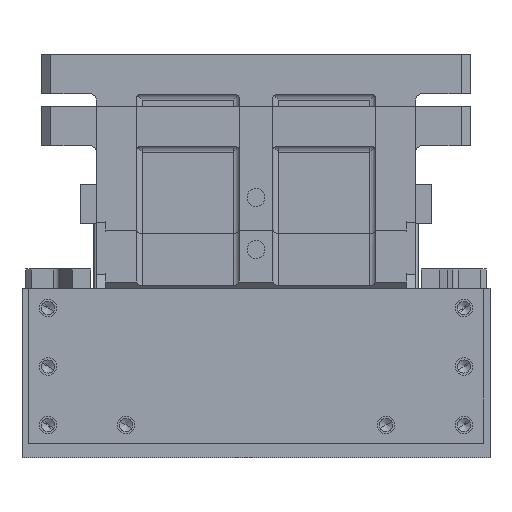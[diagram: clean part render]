
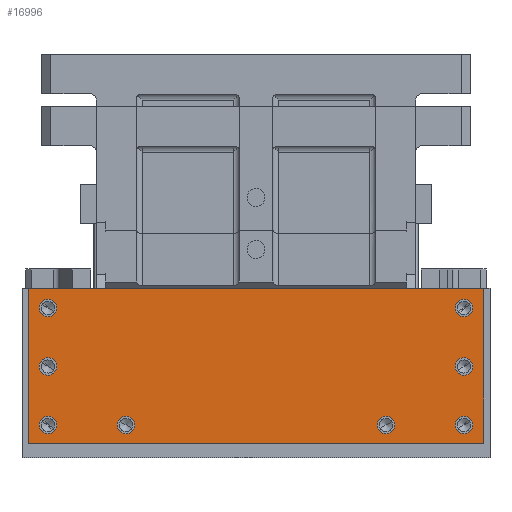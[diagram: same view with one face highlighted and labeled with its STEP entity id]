
A CAD part, left-side view. The second image highlights one B-rep face of the part: STEP entity #16996.
In plain terms, the highlighted planar face has unit normal (-1, 0, 0).
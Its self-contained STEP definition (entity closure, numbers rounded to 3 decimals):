
#14819=CARTESIAN_POINT('Vertex',(-12.,175.,130.)) ;
#14822=CARTESIAN_POINT('Line Origine',(-12.,0.,130.)) ;
#14826=CARTESIAN_POINT('Vertex',(-12.,-175.,130.)) ;
#16809=CARTESIAN_POINT('Vertex',(-12.,105.924,28.236)) ;
#16816=CARTESIAN_POINT('Vertex',(-12.,94.076,21.764)) ;
#16819=CARTESIAN_POINT('Axis2P3D Location',(-12.,100.,25.)) ;
#16831=CARTESIAN_POINT('Axis2P3D Location',(-12.,0.,0.)) ;
#16836=CARTESIAN_POINT('Line Origine',(-12.,175.,70.5)) ;
#16840=CARTESIAN_POINT('Vertex',(-12.,175.,11.)) ;
#16843=CARTESIAN_POINT('Line Origine',(-12.,0.,11.)) ;
#16847=CARTESIAN_POINT('Vertex',(-12.,-175.,11.)) ;
#16850=CARTESIAN_POINT('Line Origine',(-12.,-175.,70.5)) ;
#16861=CARTESIAN_POINT('Axis2P3D Location',(-12.,-160.,115.)) ;
#16865=CARTESIAN_POINT('Vertex',(-12.,-154.076,111.764)) ;
#16867=CARTESIAN_POINT('Vertex',(-12.,-165.924,118.236)) ;
#16870=CARTESIAN_POINT('Axis2P3D Location',(-12.,-160.,115.)) ;
#16879=CARTESIAN_POINT('Axis2P3D Location',(-12.,-100.,25.)) ;
#16883=CARTESIAN_POINT('Vertex',(-12.,-105.924,28.236)) ;
#16885=CARTESIAN_POINT('Vertex',(-12.,-94.076,21.764)) ;
#16888=CARTESIAN_POINT('Axis2P3D Location',(-12.,-100.,25.)) ;
#16897=CARTESIAN_POINT('Axis2P3D Location',(-12.,-160.,70.)) ;
#16901=CARTESIAN_POINT('Vertex',(-12.,-165.924,73.236)) ;
#16903=CARTESIAN_POINT('Vertex',(-12.,-154.076,66.764)) ;
#16906=CARTESIAN_POINT('Axis2P3D Location',(-12.,-160.,70.)) ;
#16915=CARTESIAN_POINT('Axis2P3D Location',(-12.,-160.,25.)) ;
#16919=CARTESIAN_POINT('Vertex',(-12.,-165.924,28.236)) ;
#16921=CARTESIAN_POINT('Vertex',(-12.,-154.076,21.764)) ;
#16924=CARTESIAN_POINT('Axis2P3D Location',(-12.,-160.,25.)) ;
#16933=CARTESIAN_POINT('Axis2P3D Location',(-12.,160.,115.)) ;
#16937=CARTESIAN_POINT('Vertex',(-12.,154.076,111.764)) ;
#16939=CARTESIAN_POINT('Vertex',(-12.,165.924,118.236)) ;
#16942=CARTESIAN_POINT('Axis2P3D Location',(-12.,160.,115.)) ;
#16951=CARTESIAN_POINT('Axis2P3D Location',(-12.,160.,70.)) ;
#16955=CARTESIAN_POINT('Vertex',(-12.,154.076,66.764)) ;
#16957=CARTESIAN_POINT('Vertex',(-12.,165.924,73.236)) ;
#16960=CARTESIAN_POINT('Axis2P3D Location',(-12.,160.,70.)) ;
#16969=CARTESIAN_POINT('Axis2P3D Location',(-12.,160.,25.)) ;
#16973=CARTESIAN_POINT('Vertex',(-12.,165.924,28.236)) ;
#16975=CARTESIAN_POINT('Vertex',(-12.,154.076,21.764)) ;
#16978=CARTESIAN_POINT('Axis2P3D Location',(-12.,160.,25.)) ;
#16987=CARTESIAN_POINT('Axis2P3D Location',(-12.,100.,25.)) ;
#14824=VECTOR('Line Direction',#14823,1.) ;
#16838=VECTOR('Line Direction',#16837,1.) ;
#16845=VECTOR('Line Direction',#16844,1.) ;
#16852=VECTOR('Line Direction',#16851,1.) ;
#14823=DIRECTION('Vector Direction',(0.,-1.,0.)) ;
#16820=DIRECTION('Axis2P3D Direction',(1.,0.,0.)) ;
#16832=DIRECTION('Axis2P3D Direction',(-1.,-0.,0.)) ;
#16833=DIRECTION('Axis2P3D XDirection',(0.,-1.,0.)) ;
#16837=DIRECTION('Vector Direction',(0.,0.,-1.)) ;
#16844=DIRECTION('Vector Direction',(0.,1.,0.)) ;
#16851=DIRECTION('Vector Direction',(0.,0.,-1.)) ;
#16862=DIRECTION('Axis2P3D Direction',(-1.,-0.,0.)) ;
#16871=DIRECTION('Axis2P3D Direction',(-1.,-0.,0.)) ;
#16880=DIRECTION('Axis2P3D Direction',(-1.,-0.,0.)) ;
#16889=DIRECTION('Axis2P3D Direction',(-1.,-0.,0.)) ;
#16898=DIRECTION('Axis2P3D Direction',(-1.,-0.,0.)) ;
#16907=DIRECTION('Axis2P3D Direction',(-1.,-0.,0.)) ;
#16916=DIRECTION('Axis2P3D Direction',(-1.,-0.,0.)) ;
#16925=DIRECTION('Axis2P3D Direction',(-1.,-0.,0.)) ;
#16934=DIRECTION('Axis2P3D Direction',(-1.,-0.,0.)) ;
#16943=DIRECTION('Axis2P3D Direction',(-1.,-0.,0.)) ;
#16952=DIRECTION('Axis2P3D Direction',(-1.,-0.,0.)) ;
#16961=DIRECTION('Axis2P3D Direction',(-1.,-0.,0.)) ;
#16970=DIRECTION('Axis2P3D Direction',(-1.,-0.,0.)) ;
#16979=DIRECTION('Axis2P3D Direction',(-1.,-0.,0.)) ;
#16988=DIRECTION('Axis2P3D Direction',(-1.,-0.,0.)) ;
#16821=AXIS2_PLACEMENT_3D('Circle Axis2P3D',#16819,#16820,$) ;
#16834=AXIS2_PLACEMENT_3D('Plane Axis2P3D',#16831,#16832,#16833) ;
#16863=AXIS2_PLACEMENT_3D('Circle Axis2P3D',#16861,#16862,$) ;
#16872=AXIS2_PLACEMENT_3D('Circle Axis2P3D',#16870,#16871,$) ;
#16881=AXIS2_PLACEMENT_3D('Circle Axis2P3D',#16879,#16880,$) ;
#16890=AXIS2_PLACEMENT_3D('Circle Axis2P3D',#16888,#16889,$) ;
#16899=AXIS2_PLACEMENT_3D('Circle Axis2P3D',#16897,#16898,$) ;
#16908=AXIS2_PLACEMENT_3D('Circle Axis2P3D',#16906,#16907,$) ;
#16917=AXIS2_PLACEMENT_3D('Circle Axis2P3D',#16915,#16916,$) ;
#16926=AXIS2_PLACEMENT_3D('Circle Axis2P3D',#16924,#16925,$) ;
#16935=AXIS2_PLACEMENT_3D('Circle Axis2P3D',#16933,#16934,$) ;
#16944=AXIS2_PLACEMENT_3D('Circle Axis2P3D',#16942,#16943,$) ;
#16953=AXIS2_PLACEMENT_3D('Circle Axis2P3D',#16951,#16952,$) ;
#16962=AXIS2_PLACEMENT_3D('Circle Axis2P3D',#16960,#16961,$) ;
#16971=AXIS2_PLACEMENT_3D('Circle Axis2P3D',#16969,#16970,$) ;
#16980=AXIS2_PLACEMENT_3D('Circle Axis2P3D',#16978,#16979,$) ;
#16989=AXIS2_PLACEMENT_3D('Circle Axis2P3D',#16987,#16988,$) ;
#14825=LINE('Line',#14822,#14824) ;
#16839=LINE('Line',#16836,#16838) ;
#16846=LINE('Line',#16843,#16845) ;
#16853=LINE('Line',#16850,#16852) ;
#16822=CIRCLE('generated circle',#16821,6.75) ;
#16864=CIRCLE('generated circle',#16863,6.75) ;
#16873=CIRCLE('generated circle',#16872,6.75) ;
#16882=CIRCLE('generated circle',#16881,6.75) ;
#16891=CIRCLE('generated circle',#16890,6.75) ;
#16900=CIRCLE('generated circle',#16899,6.75) ;
#16909=CIRCLE('generated circle',#16908,6.75) ;
#16918=CIRCLE('generated circle',#16917,6.75) ;
#16927=CIRCLE('generated circle',#16926,6.75) ;
#16936=CIRCLE('generated circle',#16935,6.75) ;
#16945=CIRCLE('generated circle',#16944,6.75) ;
#16954=CIRCLE('generated circle',#16953,6.75) ;
#16963=CIRCLE('generated circle',#16962,6.75) ;
#16972=CIRCLE('generated circle',#16971,6.75) ;
#16981=CIRCLE('generated circle',#16980,6.75) ;
#16990=CIRCLE('generated circle',#16989,6.75) ;
#16835=PLANE('',#16834) ;
#16878=FACE_BOUND('',#16875,.T.) ;
#16896=FACE_BOUND('',#16893,.T.) ;
#16914=FACE_BOUND('',#16911,.T.) ;
#16932=FACE_BOUND('',#16929,.T.) ;
#16950=FACE_BOUND('',#16947,.T.) ;
#16968=FACE_BOUND('',#16965,.T.) ;
#16986=FACE_BOUND('',#16983,.T.) ;
#16995=FACE_BOUND('',#16992,.T.) ;
#14828=EDGE_CURVE('',#14820,#14827,#14825,.T.) ;
#16823=EDGE_CURVE('',#16817,#16810,#16822,.F.) ;
#16842=EDGE_CURVE('',#14820,#16841,#16839,.T.) ;
#16849=EDGE_CURVE('',#16848,#16841,#16846,.T.) ;
#16854=EDGE_CURVE('',#14827,#16848,#16853,.T.) ;
#16869=EDGE_CURVE('',#16866,#16868,#16864,.F.) ;
#16874=EDGE_CURVE('',#16868,#16866,#16873,.F.) ;
#16887=EDGE_CURVE('',#16884,#16886,#16882,.F.) ;
#16892=EDGE_CURVE('',#16886,#16884,#16891,.F.) ;
#16905=EDGE_CURVE('',#16902,#16904,#16900,.F.) ;
#16910=EDGE_CURVE('',#16904,#16902,#16909,.F.) ;
#16923=EDGE_CURVE('',#16920,#16922,#16918,.F.) ;
#16928=EDGE_CURVE('',#16922,#16920,#16927,.F.) ;
#16941=EDGE_CURVE('',#16938,#16940,#16936,.T.) ;
#16946=EDGE_CURVE('',#16940,#16938,#16945,.T.) ;
#16959=EDGE_CURVE('',#16956,#16958,#16954,.T.) ;
#16964=EDGE_CURVE('',#16958,#16956,#16963,.T.) ;
#16977=EDGE_CURVE('',#16974,#16976,#16972,.T.) ;
#16982=EDGE_CURVE('',#16976,#16974,#16981,.T.) ;
#16991=EDGE_CURVE('',#16810,#16817,#16990,.T.) ;
#16855=EDGE_LOOP('',(#16856,#16857,#16858,#16859)) ;
#16875=EDGE_LOOP('',(#16876,#16877)) ;
#16893=EDGE_LOOP('',(#16894,#16895)) ;
#16911=EDGE_LOOP('',(#16912,#16913)) ;
#16929=EDGE_LOOP('',(#16930,#16931)) ;
#16947=EDGE_LOOP('',(#16948,#16949)) ;
#16965=EDGE_LOOP('',(#16966,#16967)) ;
#16983=EDGE_LOOP('',(#16984,#16985)) ;
#16992=EDGE_LOOP('',(#16993,#16994)) ;
#16856=ORIENTED_EDGE('',*,*,#16842,.T.) ;
#16857=ORIENTED_EDGE('',*,*,#16849,.F.) ;
#16858=ORIENTED_EDGE('',*,*,#16854,.F.) ;
#16859=ORIENTED_EDGE('',*,*,#14828,.F.) ;
#16876=ORIENTED_EDGE('',*,*,#16869,.T.) ;
#16877=ORIENTED_EDGE('',*,*,#16874,.T.) ;
#16894=ORIENTED_EDGE('',*,*,#16887,.T.) ;
#16895=ORIENTED_EDGE('',*,*,#16892,.T.) ;
#16912=ORIENTED_EDGE('',*,*,#16905,.T.) ;
#16913=ORIENTED_EDGE('',*,*,#16910,.T.) ;
#16930=ORIENTED_EDGE('',*,*,#16923,.T.) ;
#16931=ORIENTED_EDGE('',*,*,#16928,.T.) ;
#16948=ORIENTED_EDGE('',*,*,#16941,.F.) ;
#16949=ORIENTED_EDGE('',*,*,#16946,.F.) ;
#16966=ORIENTED_EDGE('',*,*,#16959,.F.) ;
#16967=ORIENTED_EDGE('',*,*,#16964,.F.) ;
#16984=ORIENTED_EDGE('',*,*,#16977,.F.) ;
#16985=ORIENTED_EDGE('',*,*,#16982,.F.) ;
#16993=ORIENTED_EDGE('',*,*,#16991,.F.) ;
#16994=ORIENTED_EDGE('',*,*,#16823,.F.) ;
#14820=VERTEX_POINT('',#14819) ;
#14827=VERTEX_POINT('',#14826) ;
#16810=VERTEX_POINT('',#16809) ;
#16817=VERTEX_POINT('',#16816) ;
#16841=VERTEX_POINT('',#16840) ;
#16848=VERTEX_POINT('',#16847) ;
#16866=VERTEX_POINT('',#16865) ;
#16868=VERTEX_POINT('',#16867) ;
#16884=VERTEX_POINT('',#16883) ;
#16886=VERTEX_POINT('',#16885) ;
#16902=VERTEX_POINT('',#16901) ;
#16904=VERTEX_POINT('',#16903) ;
#16920=VERTEX_POINT('',#16919) ;
#16922=VERTEX_POINT('',#16921) ;
#16938=VERTEX_POINT('',#16937) ;
#16940=VERTEX_POINT('',#16939) ;
#16956=VERTEX_POINT('',#16955) ;
#16958=VERTEX_POINT('',#16957) ;
#16974=VERTEX_POINT('',#16973) ;
#16976=VERTEX_POINT('',#16975) ;
#16996=ADVANCED_FACE('base',(#16860,#16878,#16896,#16914,#16932,#16950,#16968,#16986,#16995),#16835,.T.) ;
#16860=FACE_OUTER_BOUND('',#16855,.T.) ;
